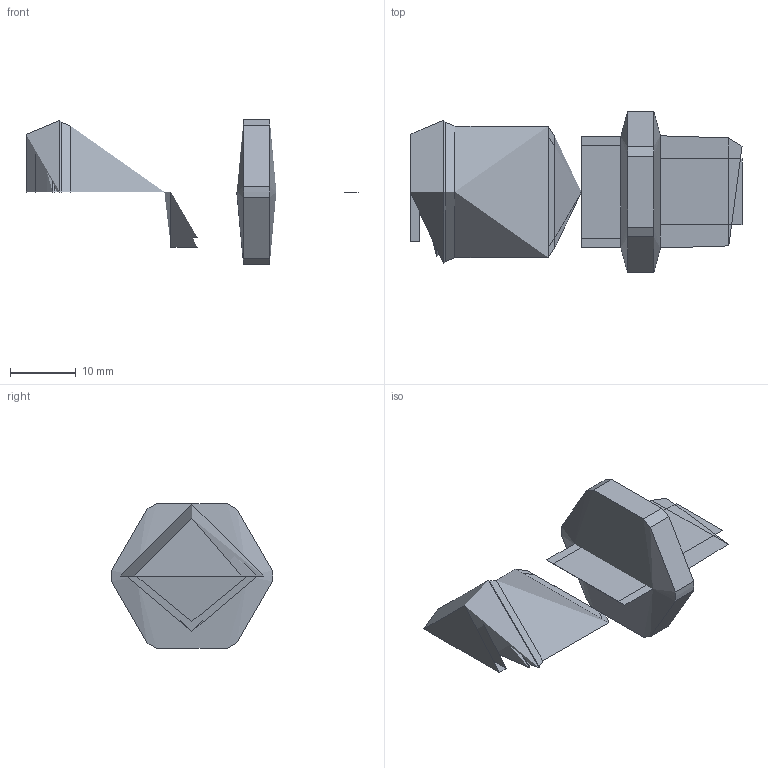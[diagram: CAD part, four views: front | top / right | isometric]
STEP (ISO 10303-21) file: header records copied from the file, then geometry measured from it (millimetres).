
FILE_DESCRIPTION(('FreeCAD Model'),'2;1');
FILE_NAME('Open CASCADE Shape Model','2025-10-20T15:01:18',('Author'),( ''),'Open CASCADE STEP processor 7.8','FreeCAD','Unknown');
FILE_SCHEMA(('AUTOMOTIVE_DESIGN { 1 0 10303 214 1 1 1 1 }'));
Length unit declared in the file: millimetre
Products named in the file (7): Unnamed151; COMPOUND; COMPOUND001; X-Achse; XY-Ebene; COMPOUND002; COMPOUND003
Assembly tree (18 placements, depth 3):
  Unnamed151
    COMPOUND
    COMPOUND001
      COMPOUND
    X-Achse  x6
    XY-Ebene  x6
    COMPOUND002
    COMPOUND003
      COMPOUND002
Bounding box: 50.4 x 24.46 x 22 mm (x, y, z)
Volume: 12417.8 mm3; surface area: 12537.5 mm2
Topology: 4 solids, 4 shells, 76 faces, 234 edges, 162 vertices
Faces by surface type: bspline 76
Entity records: 1856 total; most frequent: CARTESIAN_POINT 1038, ORIENTED_EDGE 228, EDGE_CURVE 114, VERTEX_POINT 81, FACE_BOUND 43, EDGE_LOOP 43, DIRECTION 39, ADVANCED_FACE 38
